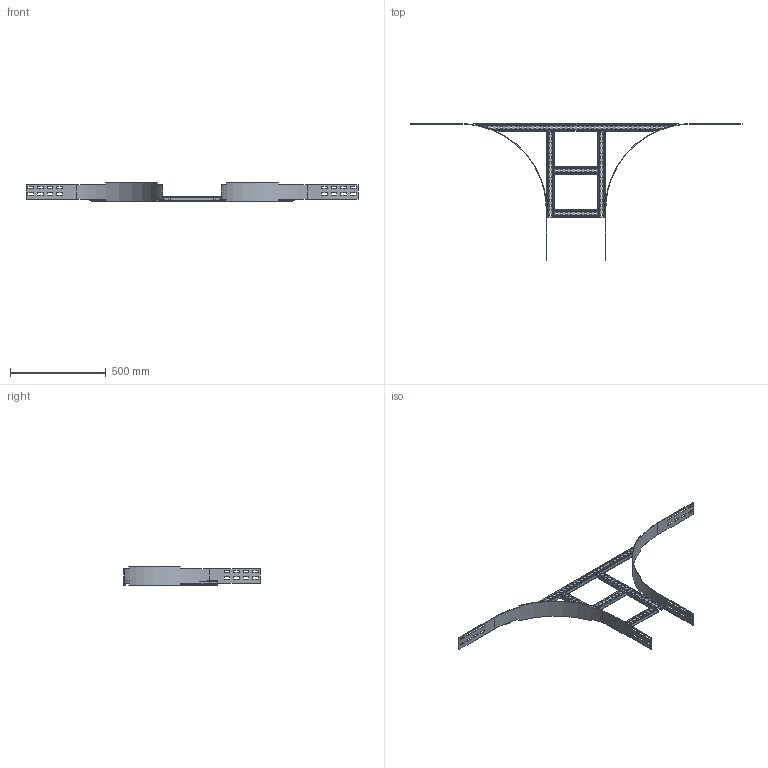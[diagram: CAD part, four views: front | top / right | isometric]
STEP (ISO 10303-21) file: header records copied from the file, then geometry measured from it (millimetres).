
FILE_DESCRIPTION(('Creo Elements/Direct Modeling STEP Export'),'2;1');
FILE_NAME('WPBP10-30-45.stp','2016-06-03T11:53:37',(''),(''),'PTC Creo Elements/Direct Modeling STEP processor for AP214 (Solid Model)','PTC Creo Elements/Direct Modeling 19.0C 15-Aug-2015 (C) Parametric Technology GmbH','');
FILE_SCHEMA(('AUTOMOTIVE_DESIGN { 1 0 10303 214 1 1 1 1 }'));
Length unit declared in the file: millimetre
Products named in the file (5): WPKS30-CUM8C6QM2VSGMG; WPAASP1_30; WPAASP2; WPAAIG_100-450; WPBP10-30-45
Assembly tree (7 placements, depth 2):
  WPBP10-30-45
    WPAAIG_100-450  x2
    WPAASP2  x2
    WPAASP1_30
    WPKS30-CUM8C6QM2VSGMG  x2
Bounding box: 1735 x 715 x 95 mm (x, y, z)
Volume: 910777.1 mm3; surface area: 870180.8 mm2
Topology: 7 solids, 7 shells, 749 faces, 2205 edges, 1470 vertices
Faces by surface type: plane 465, cylinder 284
Entity records: 16362 total; most frequent: ORIENTED_EDGE 2826, CARTESIAN_POINT 2812, DIRECTION 2737, EDGE_CURVE 1413, VECTOR 1003, LINE 1003, VERTEX_POINT 942, AXIS2_PLACEMENT_3D 867
